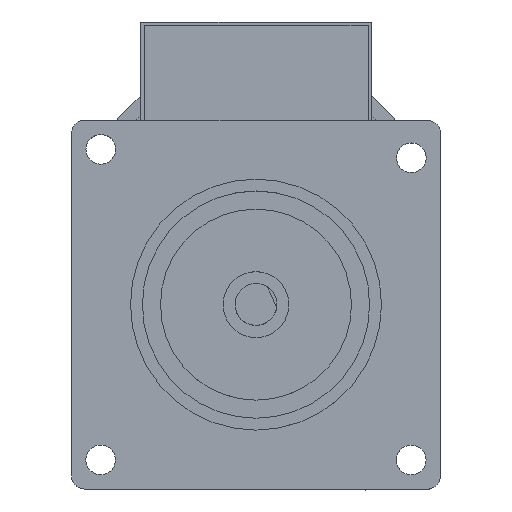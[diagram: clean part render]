
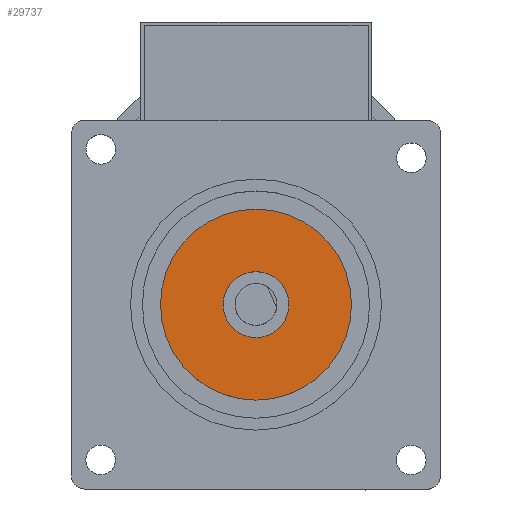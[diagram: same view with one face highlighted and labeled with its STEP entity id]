
A CAD part, top view. The second image highlights one B-rep face of the part: STEP entity #29737.
In plain terms, the highlighted planar face has unit normal (0, 0, 1).
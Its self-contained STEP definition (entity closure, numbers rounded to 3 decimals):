
#14484 = DIRECTION ( 'NONE',  ( 1., 0., 0. ) ) ;
#14485 = DIRECTION ( 'NONE',  ( 0., 0., 1. ) ) ;
#14486 = CARTESIAN_POINT ( 'NONE',  ( -70.467, 69.621, 137.22 ) ) ;
#14487 = AXIS2_PLACEMENT_3D ( 'NONE', #14486, #14485, #14484 ) ;
#14488 = CIRCLE ( 'NONE', #14487, 14.5 ) ;
#14728 = DIRECTION ( 'NONE',  ( 1., 0., 0. ) ) ;
#14729 = DIRECTION ( 'NONE',  ( 0., 0., 1. ) ) ;
#14730 = CARTESIAN_POINT ( 'NONE',  ( -85.145, 54.952, 137.22 ) ) ;
#14731 = AXIS2_PLACEMENT_3D ( 'NONE', #14730, #14729, #14728 ) ;
#14732 = PLANE ( 'NONE',  #14731 ) ;
#14747 = FACE_OUTER_BOUND ( 'NONE', #29663, .T. ) ;
#14748 = FACE_BOUND ( 'NONE', #29738, .T. ) ;
#14749 = DIRECTION ( 'NONE',  ( 1., 0., 0. ) ) ;
#14750 = DIRECTION ( 'NONE',  ( 0., 0., -1. ) ) ;
#14751 = CARTESIAN_POINT ( 'NONE',  ( -70.467, 69.621, 137.22 ) ) ;
#14752 = AXIS2_PLACEMENT_3D ( 'NONE', #14751, #14750, #14749 ) ;
#14753 = CIRCLE ( 'NONE', #14752, 5. ) ;
#14921 = CARTESIAN_POINT ( 'NONE',  ( -55.967, 69.616, 137.22 ) ) ;
#14922 = DIRECTION ( 'NONE',  ( 1., 0., 0. ) ) ;
#14923 = DIRECTION ( 'NONE',  ( 0., 0., 1. ) ) ;
#14924 = CARTESIAN_POINT ( 'NONE',  ( -70.467, 69.621, 137.22 ) ) ;
#14925 = AXIS2_PLACEMENT_3D ( 'NONE', #14924, #14923, #14922 ) ;
#14926 = CIRCLE ( 'NONE', #14925, 14.5 ) ;
#14940 = CARTESIAN_POINT ( 'NONE',  ( -65.467, 69.619, 137.22 ) ) ;
#14941 = CARTESIAN_POINT ( 'NONE',  ( -75.467, 69.623, 137.22 ) ) ;
#15011 = CARTESIAN_POINT ( 'NONE',  ( -84.967, 69.626, 137.22 ) ) ;
#15125 = DIRECTION ( 'NONE',  ( 1., 0., 0. ) ) ;
#15126 = DIRECTION ( 'NONE',  ( 0., 0., -1. ) ) ;
#15127 = CARTESIAN_POINT ( 'NONE',  ( -70.467, 69.621, 137.22 ) ) ;
#15128 = AXIS2_PLACEMENT_3D ( 'NONE', #15127, #15126, #15125 ) ;
#15129 = CIRCLE ( 'NONE', #15128, 5. ) ;
#29662 = ORIENTED_EDGE ( 'NONE', *, *, #29736, .T. ) ;
#29663 = EDGE_LOOP ( 'NONE', ( #29664, #29666 ) ) ;
#29664 = ORIENTED_EDGE ( 'NONE', *, *, #29792, .T. ) ;
#29666 = ORIENTED_EDGE ( 'NONE', *, *, #29667, .T. ) ;
#29667 = EDGE_CURVE ( 'NONE', #29821, #29793, #14488, .T. ) ;
#29736 = EDGE_CURVE ( 'NONE', #29804, #29806, #14753, .T. ) ;
#29737 = ADVANCED_FACE ( 'NONE', ( #14748, #14747 ), #14732, .T. ) ;
#29738 = EDGE_LOOP ( 'NONE', ( #29739, #29662 ) ) ;
#29739 = ORIENTED_EDGE ( 'NONE', *, *, #29859, .T. ) ;
#29792 = EDGE_CURVE ( 'NONE', #29793, #29821, #14926, .T. ) ;
#29793 = VERTEX_POINT ( 'NONE', #14921 ) ;
#29804 = VERTEX_POINT ( 'NONE', #14941 ) ;
#29806 = VERTEX_POINT ( 'NONE', #14940 ) ;
#29821 = VERTEX_POINT ( 'NONE', #15011 ) ;
#29859 = EDGE_CURVE ( 'NONE', #29806, #29804, #15129, .T. ) ;
